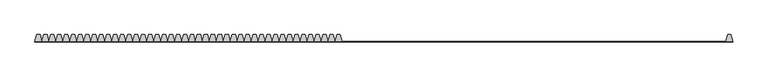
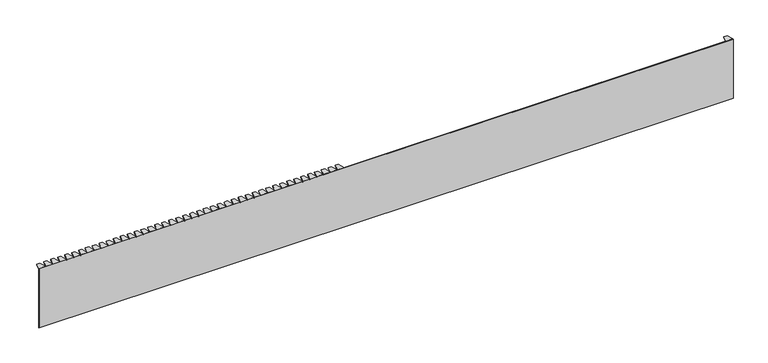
"""IFC4 building model written with IfcOpenShell, lengths in millimetres: duct fitting geometry, Полная крышка шириной 180 мм - для кабель-канала DLP 65x195 - 2м - белый : Полная крышка шириной 180 мм - для кабель-канала DLP 65x195 - 2м - белый."""

from ifc_helpers import new_model, si_unit, frame, origin, place, context, project, spatial, polyline, outline, extrude, source, transform, mapped, element, save


def duct_fitting_e9bb6939(model_context):
    return source(origin(), model_context, "Body", "SweptSolid", [
        extrude(outline(polyline([(-125.3589838, 20.0), (-120.0, 0.0), (-140.0, 0.0), (-134.2650923, 20.0), (-125.3589838, 20.0)])), frame((0.0, 0.0, 88.0), z_axis=(0.0, 0.0, 1.0), x_axis=(1.0, 0.0, 0.0)), (0.0, 0.0, 1.0), 2.0),
        extrude(outline(polyline([(-145.3589838, 20.0), (-140.0, 0.0), (-160.0, 0.0), (-154.2650923, 20.0), (-145.3589838, 20.0)])), frame((0.0, 0.0, 88.0), z_axis=(0.0, 0.0, 1.0), x_axis=(1.0, 0.0, 0.0)), (0.0, 0.0, 1.0), 2.0),
        extrude(outline(polyline([(-165.3589838, 20.0), (-160.0, 0.0), (-180.0, 0.0), (-174.2650923, 20.0), (-165.3589838, 20.0)])), frame((0.0, 0.0, 88.0), z_axis=(0.0, 0.0, 1.0), x_axis=(1.0, 0.0, 0.0)), (0.0, 0.0, 1.0), 2.0),
        extrude(outline(polyline([(-185.3589838, 20.0), (-180.0, 0.0), (-200.0, 0.0), (-194.2650923, 20.0), (-185.3589838, 20.0)])), frame((0.0, 0.0, 88.0), z_axis=(0.0, 0.0, 1.0), x_axis=(1.0, 0.0, 0.0)), (0.0, 0.0, 1.0), 2.0),
        extrude(outline(polyline([(-205.3589838, 20.0), (-200.0, 0.0), (-220.0, 0.0), (-214.2650923, 20.0), (-205.3589838, 20.0)])), frame((0.0, 0.0, 88.0), z_axis=(0.0, 0.0, 1.0), x_axis=(1.0, 0.0, 0.0)), (0.0, 0.0, 1.0), 2.0),
        extrude(outline(polyline([(-225.3589838, 20.0), (-220.0, 0.0), (-240.0, 0.0), (-234.2650923, 20.0), (-225.3589838, 20.0)])), frame((0.0, 0.0, 88.0), z_axis=(0.0, 0.0, 1.0), x_axis=(1.0, 0.0, 0.0)), (0.0, 0.0, 1.0), 2.0),
        extrude(outline(polyline([(-245.3589838, 20.0), (-240.0, 0.0), (-260.0, 0.0), (-254.2650923, 20.0), (-245.3589838, 20.0)])), frame((0.0, 0.0, 88.0), z_axis=(0.0, 0.0, 1.0), x_axis=(1.0, 0.0, 0.0)), (0.0, 0.0, 1.0), 2.0),
        extrude(outline(polyline([(-265.3589838, 20.0), (-260.0, 0.0), (-280.0, 0.0), (-274.2650923, 20.0), (-265.3589838, 20.0)])), frame((0.0, 0.0, 88.0), z_axis=(0.0, 0.0, 1.0), x_axis=(1.0, 0.0, 0.0)), (0.0, 0.0, 1.0), 2.0),
        extrude(outline(polyline([(-285.3589838, 20.0), (-280.0, 0.0), (-300.0, 0.0), (-294.2650923, 20.0), (-285.3589838, 20.0)])), frame((0.0, 0.0, 88.0), z_axis=(0.0, 0.0, 1.0), x_axis=(1.0, 0.0, 0.0)), (0.0, 0.0, 1.0), 2.0),
        extrude(outline(polyline([(-305.3589838, 20.0), (-300.0, 0.0), (-320.0, 0.0), (-314.2650923, 20.0), (-305.3589838, 20.0)])), frame((0.0, 0.0, 88.0), z_axis=(0.0, 0.0, 1.0), x_axis=(1.0, 0.0, 0.0)), (0.0, 0.0, 1.0), 2.0),
        extrude(outline(polyline([(-325.3589838, 20.0), (-320.0, 0.0), (-340.0, 0.0), (-334.2650923, 20.0), (-325.3589838, 20.0)])), frame((0.0, 0.0, 88.0), z_axis=(0.0, 0.0, 1.0), x_axis=(1.0, 0.0, 0.0)), (0.0, 0.0, 1.0), 2.0),
        extrude(outline(polyline([(-345.3589838, 20.0), (-340.0, 0.0), (-360.0, 0.0), (-354.2650923, 20.0), (-345.3589838, 20.0)])), frame((0.0, 0.0, 88.0), z_axis=(0.0, 0.0, 1.0), x_axis=(1.0, 0.0, 0.0)), (0.0, 0.0, 1.0), 2.0),
        extrude(outline(polyline([(-365.3589838, 20.0), (-360.0, 0.0), (-380.0, 0.0), (-374.2650923, 20.0), (-365.3589838, 20.0)])), frame((0.0, 0.0, 88.0), z_axis=(0.0, 0.0, 1.0), x_axis=(1.0, 0.0, 0.0)), (0.0, 0.0, 1.0), 2.0),
        extrude(outline(polyline([(-385.3589838, 20.0), (-380.0, 0.0), (-400.0, 0.0), (-394.2650923, 20.0), (-385.3589838, 20.0)])), frame((0.0, 0.0, 88.0), z_axis=(0.0, 0.0, 1.0), x_axis=(1.0, 0.0, 0.0)), (0.0, 0.0, 1.0), 2.0),
        extrude(outline(polyline([(-405.3589838, 20.0), (-400.0, 0.0), (-420.0, 0.0), (-414.2650923, 20.0), (-405.3589838, 20.0)])), frame((0.0, 0.0, 88.0), z_axis=(0.0, 0.0, 1.0), x_axis=(1.0, 0.0, 0.0)), (0.0, 0.0, 1.0), 2.0),
        extrude(outline(polyline([(-425.3589838, 20.0), (-420.0, 0.0), (-440.0, 0.0), (-434.2650923, 20.0), (-425.3589838, 20.0)])), frame((0.0, 0.0, 88.0), z_axis=(0.0, 0.0, 1.0), x_axis=(1.0, 0.0, 0.0)), (0.0, 0.0, 1.0), 2.0),
        extrude(outline(polyline([(-445.3589838, 20.0), (-440.0, 0.0), (-460.0, 0.0), (-454.2650923, 20.0), (-445.3589838, 20.0)])), frame((0.0, 0.0, 88.0), z_axis=(0.0, 0.0, 1.0), x_axis=(1.0, 0.0, 0.0)), (0.0, 0.0, 1.0), 2.0),
        extrude(outline(polyline([(-465.3589838, 20.0), (-460.0, 0.0), (-480.0, 0.0), (-474.2650923, 20.0), (-465.3589838, 20.0)])), frame((0.0, 0.0, 88.0), z_axis=(0.0, 0.0, 1.0), x_axis=(1.0, 0.0, 0.0)), (0.0, 0.0, 1.0), 2.0),
        extrude(outline(polyline([(-485.3589838, 20.0), (-480.0, 0.0), (-500.0, 0.0), (-494.2650923, 20.0), (-485.3589838, 20.0)])), frame((0.0, 0.0, 88.0), z_axis=(0.0, 0.0, 1.0), x_axis=(1.0, 0.0, 0.0)), (0.0, 0.0, 1.0), 2.0),
        extrude(outline(polyline([(-505.3589838, 20.0), (-500.0, 0.0), (-520.0, 0.0), (-514.2650923, 20.0), (-505.3589838, 20.0)])), frame((0.0, 0.0, 88.0), z_axis=(0.0, 0.0, 1.0), x_axis=(1.0, 0.0, 0.0)), (0.0, 0.0, 1.0), 2.0),
        extrude(outline(polyline([(-525.3589838, 20.0), (-520.0, 0.0), (-540.0, 0.0), (-534.2650923, 20.0), (-525.3589838, 20.0)])), frame((0.0, 0.0, 88.0), z_axis=(0.0, 0.0, 1.0), x_axis=(1.0, 0.0, 0.0)), (0.0, 0.0, 1.0), 2.0),
        extrude(outline(polyline([(-545.3589838, 20.0), (-540.0, 0.0), (-560.0, 0.0), (-554.2650923, 20.0), (-545.3589838, 20.0)])), frame((0.0, 0.0, 88.0), z_axis=(0.0, 0.0, 1.0), x_axis=(1.0, 0.0, 0.0)), (0.0, 0.0, 1.0), 2.0),
        extrude(outline(polyline([(-565.3589838, 20.0), (-560.0, 0.0), (-580.0, 0.0), (-574.2650923, 20.0), (-565.3589838, 20.0)])), frame((0.0, 0.0, 88.0), z_axis=(0.0, 0.0, 1.0), x_axis=(1.0, 0.0, 0.0)), (0.0, 0.0, 1.0), 2.0),
        extrude(outline(polyline([(-585.3589838, 20.0), (-580.0, 0.0), (-600.0, 0.0), (-594.2650923, 20.0), (-585.3589838, 20.0)])), frame((0.0, 0.0, 88.0), z_axis=(0.0, 0.0, 1.0), x_axis=(1.0, 0.0, 0.0)), (0.0, 0.0, 1.0), 2.0),
        extrude(outline(polyline([(-605.3589838, 20.0), (-600.0, 0.0), (-620.0, 0.0), (-614.2650923, 20.0), (-605.3589838, 20.0)])), frame((0.0, 0.0, 88.0), z_axis=(0.0, 0.0, 1.0), x_axis=(1.0, 0.0, 0.0)), (0.0, 0.0, 1.0), 2.0),
        extrude(outline(polyline([(-625.3589838, 20.0), (-620.0, 0.0), (-640.0, 0.0), (-634.2650923, 20.0), (-625.3589838, 20.0)])), frame((0.0, 0.0, 88.0), z_axis=(0.0, 0.0, 1.0), x_axis=(1.0, 0.0, 0.0)), (0.0, 0.0, 1.0), 2.0),
        extrude(outline(polyline([(-645.3589838, 20.0), (-640.0, 0.0), (-660.0, 0.0), (-654.2650923, 20.0), (-645.3589838, 20.0)])), frame((0.0, 0.0, 88.0), z_axis=(0.0, 0.0, 1.0), x_axis=(1.0, 0.0, 0.0)), (0.0, 0.0, 1.0), 2.0),
        extrude(outline(polyline([(-665.3589838, 20.0), (-660.0, 0.0), (-680.0, 0.0), (-674.2650923, 20.0), (-665.3589838, 20.0)])), frame((0.0, 0.0, 88.0), z_axis=(0.0, 0.0, 1.0), x_axis=(1.0, 0.0, 0.0)), (0.0, 0.0, 1.0), 2.0),
        extrude(outline(polyline([(-685.3589838, 20.0), (-680.0, 0.0), (-700.0, 0.0), (-694.2650923, 20.0), (-685.3589838, 20.0)])), frame((0.0, 0.0, 88.0), z_axis=(0.0, 0.0, 1.0), x_axis=(1.0, 0.0, 0.0)), (0.0, 0.0, 1.0), 2.0),
        extrude(outline(polyline([(-705.3589838, 20.0), (-700.0, 0.0), (-720.0, 0.0), (-714.2650923, 20.0), (-705.3589838, 20.0)])), frame((0.0, 0.0, 88.0), z_axis=(0.0, 0.0, 1.0), x_axis=(1.0, 0.0, 0.0)), (0.0, 0.0, 1.0), 2.0),
        extrude(outline(polyline([(-725.3589838, 20.0), (-720.0, 0.0), (-740.0, 0.0), (-734.2650923, 20.0), (-725.3589838, 20.0)])), frame((0.0, 0.0, 88.0), z_axis=(0.0, 0.0, 1.0), x_axis=(1.0, 0.0, 0.0)), (0.0, 0.0, 1.0), 2.0),
        extrude(outline(polyline([(-745.3589838, 20.0), (-740.0, 0.0), (-760.0, 0.0), (-754.2650923, 20.0), (-745.3589838, 20.0)])), frame((0.0, 0.0, 88.0), z_axis=(0.0, 0.0, 1.0), x_axis=(1.0, 0.0, 0.0)), (0.0, 0.0, 1.0), 2.0),
        extrude(outline(polyline([(-765.3589838, 20.0), (-760.0, 0.0), (-780.0, 0.0), (-774.2650923, 20.0), (-765.3589838, 20.0)])), frame((0.0, 0.0, 88.0), z_axis=(0.0, 0.0, 1.0), x_axis=(1.0, 0.0, 0.0)), (0.0, 0.0, 1.0), 2.0),
        extrude(outline(polyline([(-785.3589838, 20.0), (-780.0, 0.0), (-800.0, 0.0), (-794.2650923, 20.0), (-785.3589838, 20.0)])), frame((0.0, 0.0, 88.0), z_axis=(0.0, 0.0, 1.0), x_axis=(1.0, 0.0, 0.0)), (0.0, 0.0, 1.0), 2.0),
        extrude(outline(polyline([(-805.3589838, 20.0), (-800.0, 0.0), (-820.0, 0.0), (-814.2650923, 20.0), (-805.3589838, 20.0)])), frame((0.0, 0.0, 88.0), z_axis=(0.0, 0.0, 1.0), x_axis=(1.0, 0.0, 0.0)), (0.0, 0.0, 1.0), 2.0),
        extrude(outline(polyline([(-825.3589838, 20.0), (-820.0, 0.0), (-840.0, 0.0), (-834.2650923, 20.0), (-825.3589838, 20.0)])), frame((0.0, 0.0, 88.0), z_axis=(0.0, 0.0, 1.0), x_axis=(1.0, 0.0, 0.0)), (0.0, 0.0, 1.0), 2.0),
        extrude(outline(polyline([(-845.3589838, 20.0), (-840.0, 0.0), (-860.0, 0.0), (-854.2650923, 20.0), (-845.3589838, 20.0)])), frame((0.0, 0.0, 88.0), z_axis=(0.0, 0.0, 1.0), x_axis=(1.0, 0.0, 0.0)), (0.0, 0.0, 1.0), 2.0),
        extrude(outline(polyline([(-865.3589838, 20.0), (-860.0, 0.0), (-880.0, 0.0), (-874.2650923, 20.0), (-865.3589838, 20.0)])), frame((0.0, 0.0, 88.0), z_axis=(0.0, 0.0, 1.0), x_axis=(1.0, 0.0, 0.0)), (0.0, 0.0, 1.0), 2.0),
        extrude(outline(polyline([(-885.3589838, 20.0), (-880.0, 0.0), (-900.0, 0.0), (-894.2650923, 20.0), (-885.3589838, 20.0)])), frame((0.0, 0.0, 88.0), z_axis=(0.0, 0.0, 1.0), x_axis=(1.0, 0.0, 0.0)), (0.0, 0.0, 1.0), 2.0),
        extrude(outline(polyline([(-905.3589838, 20.0), (-900.0, 0.0), (-920.0, 0.0), (-914.2650923, 20.0), (-905.3589838, 20.0)])), frame((0.0, 0.0, 88.0), z_axis=(0.0, 0.0, 1.0), x_axis=(1.0, 0.0, 0.0)), (0.0, 0.0, 1.0), 2.0),
        extrude(outline(polyline([(-925.3589838, 20.0), (-920.0, 0.0), (-940.0, 0.0), (-934.2650923, 20.0), (-925.3589838, 20.0)])), frame((0.0, 0.0, 88.0), z_axis=(0.0, 0.0, 1.0), x_axis=(1.0, 0.0, 0.0)), (0.0, 0.0, 1.0), 2.0),
        extrude(outline(polyline([(-945.3589838, 20.0), (-940.0, 0.0), (-960.0, 0.0), (-954.2650923, 20.0), (-945.3589838, 20.0)])), frame((0.0, 0.0, 88.0), z_axis=(0.0, 0.0, 1.0), x_axis=(1.0, 0.0, 0.0)), (0.0, 0.0, 1.0), 2.0),
        extrude(outline(polyline([(-965.3589838, 20.0), (-960.0, 0.0), (-980.0, 0.0), (-974.2650923, 20.0), (-965.3589838, 20.0)])), frame((0.0, 0.0, 88.0), z_axis=(0.0, 0.0, 1.0), x_axis=(1.0, 0.0, 0.0)), (0.0, 0.0, 1.0), 2.0),
        extrude(outline(polyline([(994.6410162, 20.0), (1000.0, 0.0), (980.0, 0.0), (985.7349077, 20.0), (994.6410162, 20.0)])), frame((0.0, 0.0, 88.0), z_axis=(0.0, 0.0, 1.0), x_axis=(1.0, 0.0, 0.0)), (0.0, 0.0, 1.0), 2.0),
        extrude(outline(polyline([(-985.3589838, 20.0), (-980.0, 0.0), (-1000.0, 0.0), (-994.2650923, 20.0), (-985.3589838, 20.0)])), frame((0.0, 0.0, 88.0), z_axis=(0.0, 0.0, 1.0), x_axis=(1.0, 0.0, 0.0)), (0.0, 0.0, 1.0), 2.0),
        extrude(outline(polyline([(-1000.0, -1.0), (-1000.0, 1.0), (1000.0, 1.0), (1000.0, -1.0), (-1000.0, -1.0)])), frame((0.0, 0.0, -90.0), z_axis=(0.0, 0.0, 1.0), x_axis=(1.0, 0.0, 0.0)), (0.0, 0.0, 1.0), 180.0),
    ])


if __name__ == "__main__":
    model = new_model("IFC4")
    model_context = context("Model", 3, world=origin())
    ifc_project = project(units=[si_unit("LENGTHUNIT", "METRE", prefix="MILLI")], contexts=[model_context])
    site = spatial("IfcSite", under=ifc_project)
    building = spatial("IfcBuilding", under=site)
    placement = place(None, origin())
    duct_fitting_shape = duct_fitting_e9bb6939(model_context)
    element("IfcDuctFitting", 1, ObjectType="Полная крышка шириной 180 мм - для кабель-канала DLP 65x195 - 2м - белый : Полная крышка шириной 180 мм - для кабель-канала DLP 65x195 - 2м - белый", at=placement, inside=building, context=model_context, shape_type="MappedRepresentation", body=[
        mapped(duct_fitting_shape, transform((0.0, 0.0, 0.0), x_axis=(1.0, 0.0, 0.0), y_axis=(0.0, 1.0, 0.0), z_axis=(0.0, 0.0, 1.0))),
    ])
    save(model, "model.ifc")
